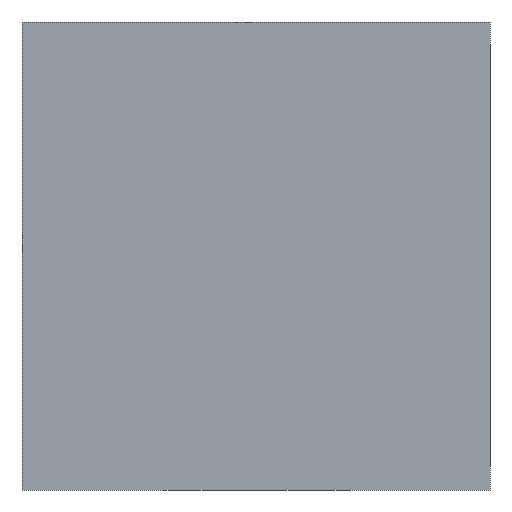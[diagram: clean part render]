
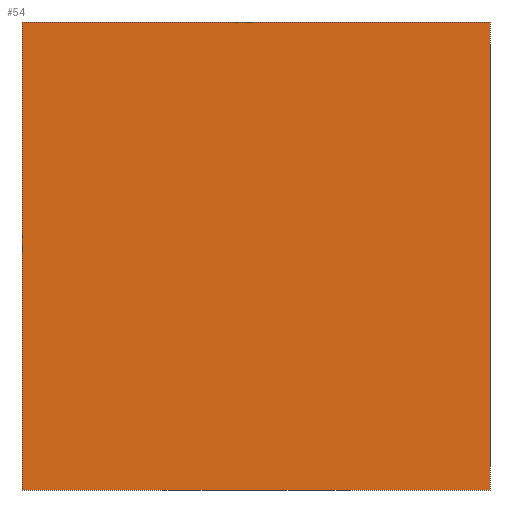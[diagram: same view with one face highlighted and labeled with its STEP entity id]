
A CAD part, front view. The second image highlights one B-rep face of the part: STEP entity #54.
In plain terms, the highlighted planar face has unit normal (0, -1, 0).
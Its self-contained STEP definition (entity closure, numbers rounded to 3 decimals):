
#48=FACE_OUTER_BOUND('',#94,.T.);
#54=ADVANCED_FACE('',(#48),#66,.T.);
#66=PLANE('',#265);
#94=EDGE_LOOP('',(#126,#127,#128,#129));
#126=ORIENTED_EDGE('',*,*,#202,.F.);
#127=ORIENTED_EDGE('',*,*,#189,.F.);
#128=ORIENTED_EDGE('',*,*,#203,.T.);
#129=ORIENTED_EDGE('',*,*,#195,.T.);
#167=VERTEX_POINT('',#340);
#169=VERTEX_POINT('',#344);
#174=VERTEX_POINT('',#356);
#176=VERTEX_POINT('',#359);
#189=EDGE_CURVE('',#169,#167,#217,.T.);
#195=EDGE_CURVE('',#176,#174,#223,.T.);
#202=EDGE_CURVE('',#167,#174,#230,.T.);
#203=EDGE_CURVE('',#169,#176,#231,.T.);
#217=LINE('',#345,#241);
#223=LINE('',#358,#247);
#230=LINE('',#372,#254);
#231=LINE('',#373,#255);
#241=VECTOR('',#284,1.);
#247=VECTOR('',#292,1.);
#254=VECTOR('',#301,1.);
#255=VECTOR('',#302,1.);
#265=AXIS2_PLACEMENT_3D('',#374,#303,#304);
#284=DIRECTION('',(0.,0.,1.));
#292=DIRECTION('',(0.,0.,1.));
#301=DIRECTION('',(1.,0.,0.));
#302=DIRECTION('',(1.,0.,0.));
#303=DIRECTION('',(0.,-1.,0.));
#304=DIRECTION('',(0.,0.,-1.));
#340=CARTESIAN_POINT('',(-15.,-15.,0.));
#344=CARTESIAN_POINT('',(-15.,-15.,-30.));
#345=CARTESIAN_POINT('',(-15.,-15.,-30.));
#356=CARTESIAN_POINT('',(15.,-15.,0.));
#358=CARTESIAN_POINT('',(15.,-15.,-30.));
#359=CARTESIAN_POINT('',(15.,-15.,-30.));
#372=CARTESIAN_POINT('',(-15.,-15.,0.));
#373=CARTESIAN_POINT('',(-15.,-15.,-30.));
#374=CARTESIAN_POINT('',(-15.,-15.,-30.));
